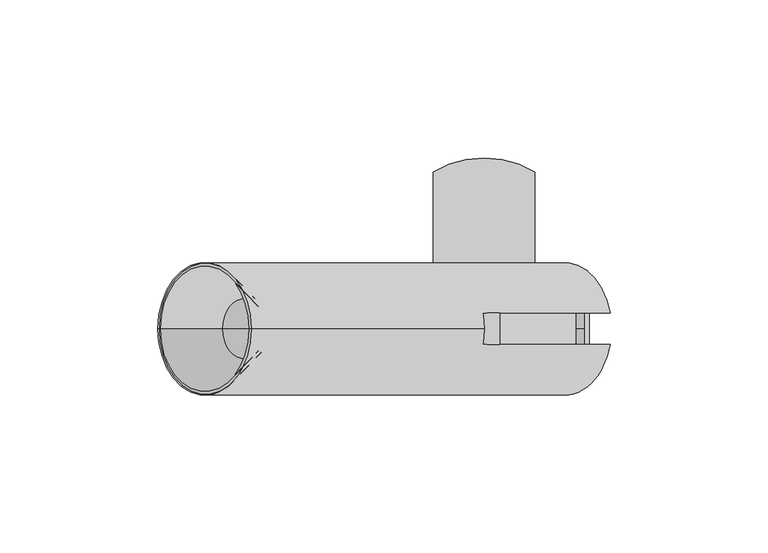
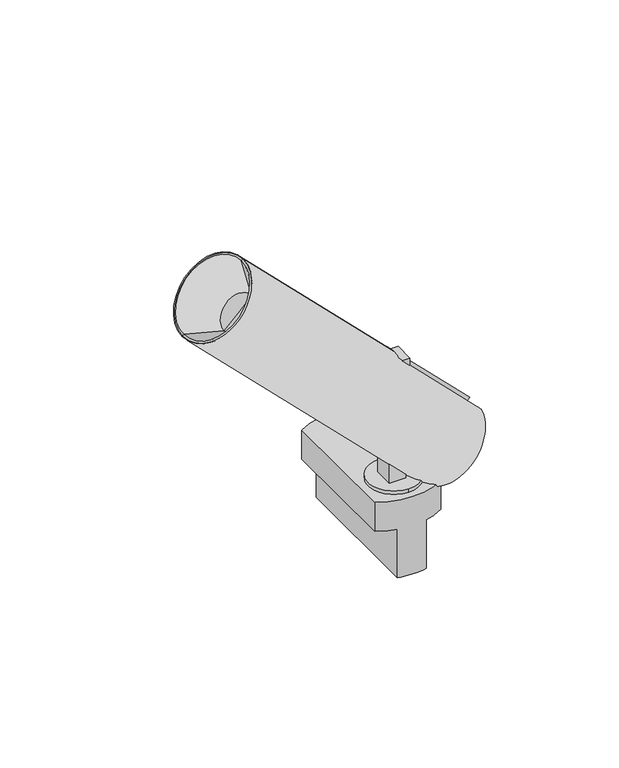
"""IFC4 building model written with IfcOpenShell, lengths in millimetres: light fixture geometry, PIPES T XS : 630lm 7,8W 840 38°."""

from ifc_helpers import new_model, si_unit, point, frame, frame_2d, origin, origin_2d, place, context, project, spatial, polyline, circle_curve, trimmed, segment, composite_curve, outline, extrude, source, transform, mapped, element, save
from ifc_brep_helpers import plane_surface, cylinder_surface, revolved_surface, advanced_brep


def light_fixture_73f92903(model_context):
    return source(origin(), model_context, "Body", "SolidModel", [
        extrude(outline(composite_curve([segment(polyline([(16.8, -5.0), (16.8, 3.0), (19.8, 3.0), (19.8, 5.0), (77.8486083, 5.0), (77.8486083, -3.0)]), True, "CONTINUOUS"), segment(trimmed(circle_curve(frame_2d((72.2216603, -3.0)), 5.626948), [point((77.8486083, -3.0))], [point((72.2216603, -8.626948))], False, "CARTESIAN"), True, "CONTINUOUS"), segment(polyline([(72.2216603, -8.626948), (66.4039036, -8.626948)]), True, "CONTINUOUS"), segment(trimmed(circle_curve(frame_2d((74.2485419, -2.7611322)), 9.7952104), [point((66.4039036, -8.626948))], [point((64.7126299, -5.0))], False, "CARTESIAN"), True, "CONTINUOUS"), segment(polyline([(64.7126299, -5.0), (16.8, -5.0)]), True, "CONTINUOUS")], self_intersect=False)), frame((0.0, -5.0, 0.0), z_axis=(0.0, 1.0, 0.0), x_axis=(0.0, 0.0, 1.0)), (0.0, 0.0, 1.0), 10.0),
        extrude(outline(composite_curve([segment(trimmed(circle_curve(origin_2d(), 12.5), [point((0.0, 12.5))], [point((0.0, -12.5))], False, "CARTESIAN"), True, "CONTINUOUS"), segment(trimmed(circle_curve(origin_2d(), 12.5), [point((0.0, -12.5))], [point((0.0, 12.5))], False, "CARTESIAN"), True, "CONTINUOUS")], self_intersect=False)), frame((0.0, 0.0, 15.0), z_axis=(0.0, 0.0, 1.0), x_axis=(1.0, 0.0, 0.0)), (0.0, 0.0, 1.0), 1.8),
        advanced_brep(
        [(-7.1153658, -15.2862846, -25.0), (-7.1153658, 53.3498174, -25.0), (7.1153658, 53.3498174, -25.0), (7.1153658, -15.2862846, -25.0), (-16.1153658, 49.7317664, 15.0), (-16.1153658, -11.6682336, 15.0), (16.1153658, -11.6682336, 15.0), (16.1153658, 49.7317664, 15.0), (-16.1153658, 49.7317664, 0.0), (-16.1153658, -11.6682336, 0.0), (-7.1153658, -15.2862846, 0.0), (7.1153658, -15.2862846, 0.0), (16.1153658, -11.6682336, 0.0), (16.1153658, 49.7317664, 0.0), (7.1153658, 53.3498174, 0.0), (-7.1153658, 53.3498174, 0.0)],
        [
            (0, 1),
            (1, 2, circle_curve(frame((0.0, 22.6472542, -25.0), z_axis=(0.0, 0.0, -1.0), x_axis=(1.0, 0.0, 0.0)), 31.5162786)),
            (2, 3),
            (3, 0, circle_curve(frame((0.0, 15.4162786, -25.0), z_axis=(0.0, 0.0, -1.0), x_axis=(1.0, 0.0, 0.0)), 31.5162786)),
            (4, 5),
            (5, 6, circle_curve(frame((0.0, 15.4162786, 15.0), z_axis=(0.0, 0.0, 1.0), x_axis=(1.0, 0.0, 0.0)), 31.5162786)),
            (6, 7),
            (7, 4, circle_curve(frame((0.0, 22.6472542, 15.0), z_axis=(0.0, 0.0, 1.0), x_axis=(1.0, 0.0, 0.0)), 31.5162786)),
            (4, 8),
            (8, 9),
            (9, 5),
            (9, 10, circle_curve(frame((0.0, 15.4162786, 0.0), z_axis=(0.0, 0.0, 1.0), x_axis=(1.0, 0.0, 0.0)), 31.5162786)),
            (10, 0),
            (3, 11),
            (11, 12, circle_curve(frame((0.0, 15.4162786, 0.0), z_axis=(0.0, 0.0, 1.0), x_axis=(1.0, 0.0, 0.0)), 31.5162786)),
            (12, 6),
            (12, 13),
            (13, 7),
            (13, 14, circle_curve(frame((0.0, 22.6472542, 0.0), z_axis=(0.0, 0.0, 1.0), x_axis=(1.0, 0.0, 0.0)), 31.5162786)),
            (14, 2),
            (1, 15),
            (15, 8, circle_curve(frame((0.0, 22.6472542, 0.0), z_axis=(0.0, 0.0, 1.0), x_axis=(1.0, 0.0, 0.0)), 31.5162786)),
            (15, 10),
            (11, 14),
        ],
        [
            plane_surface(frame((-16.1153658, -11.6883244, -25.0), z_axis=(0.0, 0.0, -1.0), x_axis=(0.0, 1.0, 0.0))),
            plane_surface(frame((-16.1153658, -11.6883244, 15.0), z_axis=(0.0, 0.0, 1.0), x_axis=(0.0, -1.0, 0.0))),
            plane_surface(frame((-16.1153658, 49.7317664, 15.0), z_axis=(-1.0, 0.0, 0.0), x_axis=(0.0, 0.0, -1.0))),
            cylinder_surface(frame((0.0, 15.4162786, -25.0), z_axis=(0.0, 0.0, 1.0), x_axis=(1.0, 0.0, 0.0)), 31.5162786),
            plane_surface(frame((16.1153658, -11.6682336, 15.0), z_axis=(1.0, 0.0, 0.0), x_axis=(0.0, 0.0, -1.0))),
            cylinder_surface(frame((0.0, 22.6472542, -25.0), z_axis=(0.0, 0.0, 1.0), x_axis=(1.0, 0.0, 0.0)), 31.5162786),
            plane_surface(frame((-7.1153658, 58.6979838, 0.0), z_axis=(0.0, 0.0, -1.0), x_axis=(-1.0, 0.0, 0.0))),
            plane_surface(frame((-7.1153658, -21.3020162, 0.0), z_axis=(-1.0, 0.0, 0.0), x_axis=(0.0, 0.0, -1.0))),
            plane_surface(frame((7.1153658, -11.6883244, 0.0), z_axis=(0.0, 0.0, -1.0), x_axis=(0.0, -1.0, 0.0))),
            plane_surface(frame((7.1153658, 58.6979838, 0.0), z_axis=(1.0, 0.0, 0.0), x_axis=(0.0, 0.0, -1.0))),
        ],
        [
            (0, [[1, 2, 3, 4]]),
            (1, [[5, 6, 7, 8]]),
            (2, [[-5, 9, 10, 11]]),
            (3, [[-6, -11, 12, 13, -4, 14, 15, 16]]),
            (4, [[-7, -16, 17, 18]]),
            (5, [[-8, -18, 19, 20, -2, 21, 22, -9]]),
            (6, [[23, -12, -10, -22]]),
            (7, [[-23, -21, -1, -13]]),
            (8, [[24, -19, -17, -15]]),
            (9, [[-24, -14, -3, -20]]),
        ],
    ),
        advanced_brep(
        [(-7.0710678, 5.0, 73.0), (28.991378, 5.0, 36.9375542), (34.1746848, 5.0, 42.120861), (38.4173255, 5.0, 37.8782203), (39.8780492, 5.0, 39.338944), (-0.4270373, 5.0, 79.6440305), (-7.0710678, -5.0, 73.0), (-0.4270373, -5.0, 79.6440305), (39.8780492, -5.0, 39.338944), (38.4173255, -5.0, 37.8782203), (34.1746848, -5.0, 42.120861), (28.991378, -5.0, 36.9375542), (28.991378, 0.0, 36.9375542), (0.0, 0.0, 80.0710678), (-73.5391052, 0.0, 153.6101731), (-103.2375901, 0.0, 123.9116882), (10.6066017, 0.0, 10.0674965), (12.0208153, 0.0, 11.48171), (7.7781746, 0.0, 15.7243507), (21.2132034, 0.0, 29.1593796), (-82.37794, 0.0, 118.6083874), (-68.2358044, 0.0, 132.750523), (-75.3068722, 0.0, 125.6794552)],
        [
            (0, 1),
            (1, 2),
            (2, 3),
            (3, 4),
            (4, 5),
            (5, 0),
            (6, 7),
            (7, 8),
            (8, 9),
            (9, 10),
            (10, 11),
            (11, 6),
            (0, 6),
            (11, 12),
            (12, 1),
            (5, 13, circle_curve(frame((-14.8492424, 0.0, 65.2218254), z_axis=(0.7071067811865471, 0.0, -0.7071067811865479), x_axis=(0.7071067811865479, 0.0, 0.7071067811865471)), 21.0)),
            (13, 7, circle_curve(frame((-14.8492424, 0.0, 65.2218254), z_axis=(0.7071067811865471, 0.0, -0.7071067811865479), x_axis=(0.7071067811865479, 0.0, 0.7071067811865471)), 21.0)),
            (14, 15, circle_curve(frame((-88.3883476, 0.0, 138.7609307), z_axis=(0.7071067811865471, 0.0, -0.7071067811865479), x_axis=(0.7071067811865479, 0.0, 0.7071067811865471)), 21.0)),
            (15, 16),
            (16, 8, circle_curve(frame((25.4558441, 0.0, 24.9167389), z_axis=(-0.7071067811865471, 0.0, 0.7071067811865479), x_axis=(0.7071067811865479, 0.0, 0.7071067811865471)), 21.0)),
            (13, 14),
            (15, 14, circle_curve(frame((-88.3883476, 0.0, 138.7609307), z_axis=(0.7071067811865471, 0.0, -0.7071067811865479), x_axis=(0.7071067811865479, 0.0, 0.7071067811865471)), 21.0)),
            (4, 16, circle_curve(frame((25.4558441, 0.0, 24.9167389), z_axis=(-0.7071067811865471, 0.0, 0.7071067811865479), x_axis=(0.7071067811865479, 0.0, 0.7071067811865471)), 21.0)),
            (16, 17),
            (17, 9, circle_curve(frame((25.4558441, 0.0, 24.9167389), z_axis=(-0.7071067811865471, 0.0, 0.7071067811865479), x_axis=(0.7071067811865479, 0.0, 0.7071067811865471)), 19.0)),
            (3, 17, circle_curve(frame((25.4558441, 0.0, 24.9167389), z_axis=(-0.7071067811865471, 0.0, 0.7071067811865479), x_axis=(0.7071067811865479, 0.0, 0.7071067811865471)), 19.0)),
            (17, 18),
            (18, 10, circle_curve(frame((21.2132034, 0.0, 29.1593796), z_axis=(-0.7071067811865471, 0.0, 0.7071067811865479), x_axis=(0.7071067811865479, 0.0, 0.7071067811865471)), 19.0)),
            (2, 18, circle_curve(frame((21.2132034, 0.0, 29.1593796), z_axis=(-0.7071067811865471, 0.0, 0.7071067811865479), x_axis=(0.7071067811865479, 0.0, 0.7071067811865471)), 19.0)),
            (18, 19),
            (19, 12),
            (20, 21, circle_curve(frame((-75.3068722, 0.0, 125.6794552), z_axis=(-0.7071067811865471, 0.0, 0.7071067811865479), x_axis=(0.7071067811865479, 0.0, 0.7071067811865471)), 10.0)),
            (21, 22),
            (22, 20),
            (21, 20, circle_curve(frame((-75.3068722, 0.0, 125.6794552), z_axis=(-0.7071067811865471, 0.0, 0.7071067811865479), x_axis=(0.7071067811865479, 0.0, 0.7071067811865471)), 10.0)),
            (14, 21),
            (20, 15),
        ],
        [
            plane_surface(frame((-7.0710678, 5.0, 73.0), z_axis=(0.0, -1.0000000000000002, 0.0), x_axis=(-0.7071067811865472, 0.0, 0.7071067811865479))),
            plane_surface(frame((-7.0710678, -5.0, 73.0), z_axis=(0.0, 1.0000000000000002, 0.0), x_axis=(0.7071067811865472, 0.0, -0.7071067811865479))),
            plane_surface(frame((-7.0710678, -5.0, 73.0), z_axis=(0.7071067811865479, 0.0, 0.7071067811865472), x_axis=(0.0, 1.0, 0.0))),
            plane_surface(frame((7.0710678, -5.0, 87.1421356), z_axis=(0.7071067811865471, 0.0, -0.7071067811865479), x_axis=(0.0, 1.0, 0.0))),
            cylinder_surface(frame((31.43258, 0.0, 18.940003), z_axis=(0.7071067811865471, 0.0, -0.7071067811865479), x_axis=(0.7071067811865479, 0.0, 0.7071067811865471)), 21.0),
            plane_surface(frame((25.4558441, 0.0, 24.9167389), z_axis=(0.7071067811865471, 0.0, -0.7071067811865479), x_axis=(0.7071067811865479, 0.0, 0.7071067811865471))),
            revolved_surface(polyline([(38.89087299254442, 0.0, 38.35176769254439), (34.64823224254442, 0.0, 42.594408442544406)]), (31.43258, 0.0, 18.940003), (0.7071067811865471, 0.0, -0.7071067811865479)),
            plane_surface(frame((21.2132034, 0.0, 29.1593796), z_axis=(0.7071067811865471, 0.0, -0.7071067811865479), x_axis=(0.7071067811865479, 0.0, 0.7071067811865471))),
            plane_surface(frame((-75.3068722, 0.0, 125.6794552), z_axis=(-0.7071067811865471, 0.0, 0.7071067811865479), x_axis=(0.7071067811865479, 0.0, 0.7071067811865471))),
            revolved_surface(polyline([(-68.2358044, 0.0, 132.750523), (-73.5391052, 0.0, 153.6101731)]), (31.43258, 0.0, 18.940003), (0.7071067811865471, 0.0, -0.7071067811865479)),
        ],
        [
            (0, [[1, 2, 3, 4, 5, 6]]),
            (1, [[7, 8, 9, 10, 11, 12]]),
            (2, [[13, -12, 14, 15, -1]]),
            (3, [[-13, -6, 16, 17, -7]]),
            (4, [[18, 19, 20, -8, -17, 21]]),
            (4, [[-19, 22, -21, -16, -5, 23]]),
            (5, [[24, 25, -9, -20]]),
            (5, [[-24, -23, -4, 26]]),
            (6, [[27, 28, -10, -25]]),
            (6, [[-27, -26, -3, 29]]),
            (7, [[30, 31, -14, -11, -28]]),
            (7, [[-30, -29, -2, -15, -31]]),
            (8, [[32, 33, 34]]),
            (8, [[-33, 35, -34]]),
            (9, [[-18, 36, -32, 37]]),
            (9, [[-22, -37, -35, -36]]),
        ],
    ),
        advanced_brep(
        [(31.8198052, 5.0, 34.109127), (33.2340187, 5.0, 32.6949135), (36.9402665, 5.0, 36.4011613), (35.526053, 5.0, 37.8153748), (33.2340187, -5.0, 32.6949135), (31.8198052, -5.0, 34.109127), (35.526053, -5.0, 37.8153748), (36.9402665, -5.0, 36.4011613), (31.8198052, 0.0, 34.109127), (33.2340187, 0.0, 32.6949135), (24.0416306, 0.0, 26.3309524), (12.0253101, 0.0, 14.314632), (13.4395236, 0.0, 12.9004184), (25.4558441, 0.0, 24.9167389)],
        [
            (0, 1),
            (1, 2),
            (2, 3),
            (3, 0),
            (4, 5),
            (5, 6),
            (6, 7),
            (7, 4),
            (0, 8),
            (8, 5),
            (4, 9),
            (9, 1),
            (10, 11),
            (11, 6, circle_curve(frame((24.0416306, 0.0, 26.3309524), z_axis=(-0.7071067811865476, 0.0, 0.7071067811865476), x_axis=(0.7071067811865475, 0.0, 0.7071067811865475)), 16.9936434)),
            (8, 10),
            (3, 11, circle_curve(frame((24.0416306, 0.0, 26.3309524), z_axis=(-0.7071067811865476, 0.0, 0.7071067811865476), x_axis=(0.7071067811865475, 0.0, 0.7071067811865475)), 16.9936434)),
            (11, 12),
            (12, 7, circle_curve(frame((25.4558441, 0.0, 24.9167389), z_axis=(-0.7071067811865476, 0.0, 0.7071067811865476), x_axis=(0.7071067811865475, 0.0, 0.7071067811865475)), 16.9936434)),
            (2, 12, circle_curve(frame((25.4558441, 0.0, 24.9167389), z_axis=(-0.7071067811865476, 0.0, 0.7071067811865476), x_axis=(0.7071067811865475, 0.0, 0.7071067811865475)), 16.9936434)),
            (12, 13),
            (13, 9),
        ],
        [
            plane_surface(frame((-7.0710678, 5.0, 73.0), z_axis=(0.0, -1.0000000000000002, 0.0), x_axis=(-0.7071067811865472, 0.0, 0.7071067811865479))),
            plane_surface(frame((-7.0710678, -5.0, 73.0), z_axis=(0.0, 1.0000000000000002, 0.0), x_axis=(0.7071067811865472, 0.0, -0.7071067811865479))),
            plane_surface(frame((-7.0710678, -5.0, 73.0), z_axis=(0.7071067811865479, 0.0, 0.7071067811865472), x_axis=(0.0, 1.0, 0.0))),
            plane_surface(frame((24.0416306, 0.0, 26.3309524), z_axis=(-0.7071067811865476, 0.0, 0.7071067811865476), x_axis=(0.7071067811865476, 0.0, 0.7071067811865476))),
            cylinder_surface(frame((-67.9159227, 0.0, 118.2885057), z_axis=(0.7071067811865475, 0.0, -0.7071067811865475), x_axis=(0.7071067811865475, 0.0, 0.7071067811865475)), 16.9936434),
            plane_surface(frame((25.4558441, 0.0, 24.9167389), z_axis=(0.7071067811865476, 0.0, -0.7071067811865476), x_axis=(0.7071067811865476, 0.0, 0.7071067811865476))),
        ],
        [
            (0, [[1, 2, 3, 4]]),
            (1, [[5, 6, 7, 8]]),
            (2, [[-1, 9, 10, -5, 11, 12]]),
            (3, [[13, 14, -6, -10, 15]]),
            (3, [[-13, -15, -9, -4, 16]]),
            (4, [[17, 18, -7, -14]]),
            (4, [[-17, -16, -3, 19]]),
            (5, [[20, 21, -11, -8, -18]]),
            (5, [[-20, -19, -2, -12, -21]]),
        ],
    ),
        advanced_brep(
        [(-82.6828275, 0.0, 119.7177134), (-69.3451304, 0.0, 133.0554105), (-76.013979, 0.0, 126.386562), (-102.4149289, 0.0, 124.7343494), (-74.3617664, 0.0, 152.7875119), (-103.2375901, 0.0, 123.9116882), (-73.5391052, 0.0, 153.6101731), (-82.37794, 0.0, 118.6083874), (-68.2358044, 0.0, 132.750523), (-75.3068722, 0.0, 125.6794552)],
        [
            (0, 1, circle_curve(frame((-76.013979, 0.0, 126.386562), z_axis=(-0.7071067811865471, 0.0, 0.7071067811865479), x_axis=(0.7071067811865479, 0.0, 0.7071067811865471)), 9.431176)),
            (1, 2),
            (2, 0),
            (1, 0, circle_curve(frame((-76.013979, 0.0, 126.386562), z_axis=(-0.7071067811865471, 0.0, 0.7071067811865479), x_axis=(0.7071067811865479, 0.0, 0.7071067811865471)), 9.431176)),
            (3, 4, circle_curve(frame((-88.3883476, 0.0, 138.7609307), z_axis=(-0.7071067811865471, 0.0, 0.7071067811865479), x_axis=(0.7071067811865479, 0.0, 0.7071067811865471)), 19.8365814)),
            (4, 1),
            (0, 3),
            (4, 3, circle_curve(frame((-88.3883476, 0.0, 138.7609307), z_axis=(-0.7071067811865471, 0.0, 0.7071067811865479), x_axis=(0.7071067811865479, 0.0, 0.7071067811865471)), 19.8365814)),
            (5, 6, circle_curve(frame((-88.3883476, 0.0, 138.7609307), z_axis=(-0.7071067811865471, 0.0, 0.7071067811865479), x_axis=(0.7071067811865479, 0.0, 0.7071067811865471)), 21.0)),
            (6, 4),
            (3, 5),
            (6, 5, circle_curve(frame((-88.3883476, 0.0, 138.7609307), z_axis=(-0.7071067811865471, 0.0, 0.7071067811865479), x_axis=(0.7071067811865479, 0.0, 0.7071067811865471)), 21.0)),
            (7, 8, circle_curve(frame((-75.3068722, 0.0, 125.6794552), z_axis=(-0.7071067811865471, 0.0, 0.7071067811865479), x_axis=(0.7071067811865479, 0.0, 0.7071067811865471)), 10.0)),
            (8, 6),
            (5, 7),
            (8, 7, circle_curve(frame((-75.3068722, 0.0, 125.6794552), z_axis=(-0.7071067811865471, 0.0, 0.7071067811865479), x_axis=(0.7071067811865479, 0.0, 0.7071067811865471)), 10.0)),
            (9, 8),
            (7, 9),
        ],
        [
            plane_surface(frame((-76.013979, 0.0, 126.386562), z_axis=(-0.7071067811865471, 0.0, 0.7071067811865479), x_axis=(0.7071067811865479, 0.0, 0.7071067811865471))),
            revolved_surface(polyline([(-69.3451304, 0.0, 133.0554105), (-74.3617664, 0.0, 152.7875119)]), (45.5747156, 0.0, 4.7978674), (0.7071067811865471, 0.0, -0.7071067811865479)),
            plane_surface(frame((-88.3883476, 0.0, 138.7609307), z_axis=(-0.7071067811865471, 0.0, 0.7071067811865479), x_axis=(0.7071067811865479, 0.0, 0.7071067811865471))),
            revolved_surface(polyline([(-73.5391052, 0.0, 153.6101731), (-68.2358044, 0.0, 132.750523)]), (45.5747156, 0.0, 4.7978674), (0.7071067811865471, 0.0, -0.7071067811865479)),
            plane_surface(frame((-75.3068722, 0.0, 125.6794552), z_axis=(0.7071067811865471, 0.0, -0.7071067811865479), x_axis=(0.7071067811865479, 0.0, 0.7071067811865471))),
        ],
        [
            (0, [[1, 2, 3]]),
            (0, [[4, -3, -2]]),
            (1, [[5, 6, -1, 7]]),
            (1, [[8, -7, -4, -6]]),
            (2, [[9, 10, -5, 11]]),
            (2, [[12, -11, -8, -10]]),
            (3, [[13, 14, -9, 15]]),
            (3, [[16, -15, -12, -14]]),
            (4, [[17, -13, 18]]),
            (4, [[-18, -16, -17]]),
        ],
    ),
    ])


if __name__ == "__main__":
    model = new_model("IFC4")
    model_context = context("Model", 3, world=origin())
    ifc_project = project(units=[si_unit("LENGTHUNIT", "METRE", prefix="MILLI")], contexts=[model_context])
    site = spatial("IfcSite", under=ifc_project)
    building = spatial("IfcBuilding", under=site)
    placement = place(None, origin())
    light_fixture_shape = light_fixture_73f92903(model_context)
    element("IfcLightFixture", 1, ObjectType="PIPES T XS : 630lm 7,8W 840 38°", at=placement, inside=building, context=model_context, shape_type="MappedRepresentation", body=[
        mapped(light_fixture_shape, transform((0.0, 0.0, 0.0), x_axis=(1.0, 0.0, 0.0), y_axis=(0.0, 1.0, 0.0), z_axis=(0.0, 0.0, 1.0))),
    ])
    save(model, "model.ifc")
